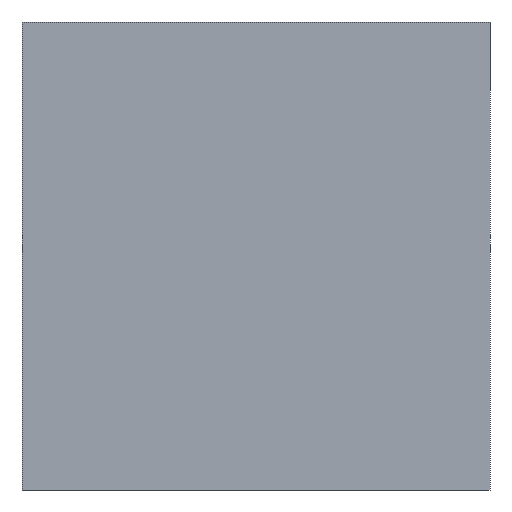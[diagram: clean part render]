
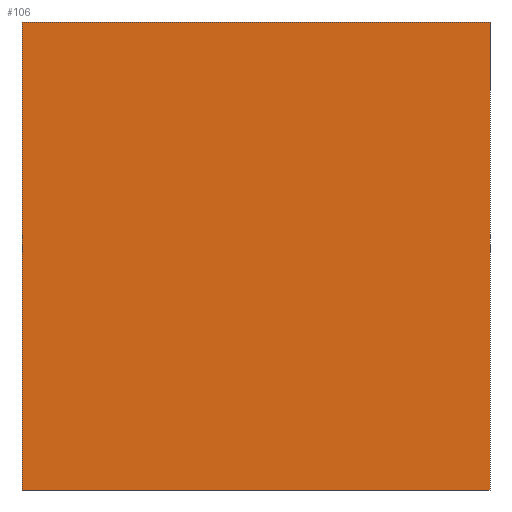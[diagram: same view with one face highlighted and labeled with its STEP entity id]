
A CAD part, front view. The second image highlights one B-rep face of the part: STEP entity #106.
In plain terms, the highlighted planar face has unit normal (0, -1, 0).
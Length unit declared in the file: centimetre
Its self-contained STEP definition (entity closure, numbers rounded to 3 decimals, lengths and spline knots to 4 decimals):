
#4 = PLANE ( 'NONE',  #493 ) ;
#6 = EDGE_CURVE ( 'NONE', #289, #546, #66, .T. ) ;
#9 = ORIENTED_EDGE ( 'NONE', *, *, #6, .T. ) ;
#41 = LINE ( 'NONE', #266, #350 ) ;
#45 = CARTESIAN_POINT ( 'NONE',  ( 0., 0., 1000. ) ) ;
#54 = DIRECTION ( 'NONE',  ( 0., 0., -1. ) ) ;
#57 = VERTEX_POINT ( 'NONE', #403 ) ;
#58 = ORIENTED_EDGE ( 'NONE', *, *, #185, .F. ) ;
#66 = LINE ( 'NONE', #473, #583 ) ;
#75 = ORIENTED_EDGE ( 'NONE', *, *, #523, .T. ) ;
#98 = EDGE_CURVE ( 'NONE', #214, #546, #275, .T. ) ;
#106 = ADVANCED_FACE ( 'NONE', ( #544 ), #4, .F. ) ;
#108 = EDGE_LOOP ( 'NONE', ( #9, #202, #58, #75 ) ) ;
#129 = CARTESIAN_POINT ( 'NONE',  ( 1000., 0., 1000. ) ) ;
#141 = CARTESIAN_POINT ( 'NONE',  ( 1000., 0., 1000. ) ) ;
#168 = CARTESIAN_POINT ( 'NONE',  ( 0., 0., 1000. ) ) ;
#185 = EDGE_CURVE ( 'NONE', #57, #214, #41, .T. ) ;
#202 = ORIENTED_EDGE ( 'NONE', *, *, #98, .F. ) ;
#214 = VERTEX_POINT ( 'NONE', #129 ) ;
#257 = LINE ( 'NONE', #168, #309 ) ;
#266 = CARTESIAN_POINT ( 'NONE',  ( 0., 0., 1000. ) ) ;
#275 = LINE ( 'NONE', #141, #465 ) ;
#289 = VERTEX_POINT ( 'NONE', #345 ) ;
#292 = DIRECTION ( 'NONE',  ( 1., 0., 0. ) ) ;
#309 = VECTOR ( 'NONE', #332, 100. ) ;
#314 = DIRECTION ( 'NONE',  ( 0., 1., 0. ) ) ;
#332 = DIRECTION ( 'NONE',  ( 0., 0., -1. ) ) ;
#334 = CARTESIAN_POINT ( 'NONE',  ( 1000., 0., 0. ) ) ;
#345 = CARTESIAN_POINT ( 'NONE',  ( 0., 0., 0. ) ) ;
#350 = VECTOR ( 'NONE', #440, 100. ) ;
#403 = CARTESIAN_POINT ( 'NONE',  ( 0., 0., 1000. ) ) ;
#440 = DIRECTION ( 'NONE',  ( 1., 0., 0. ) ) ;
#465 = VECTOR ( 'NONE', #54, 100. ) ;
#473 = CARTESIAN_POINT ( 'NONE',  ( 0., 0., 0. ) ) ;
#493 = AXIS2_PLACEMENT_3D ( 'NONE', #45, #314, #496 ) ;
#496 = DIRECTION ( 'NONE',  ( 0., 0., 1. ) ) ;
#523 = EDGE_CURVE ( 'NONE', #57, #289, #257, .T. ) ;
#544 = FACE_OUTER_BOUND ( 'NONE', #108, .T. ) ;
#546 = VERTEX_POINT ( 'NONE', #334 ) ;
#583 = VECTOR ( 'NONE', #292, 100. ) ;
